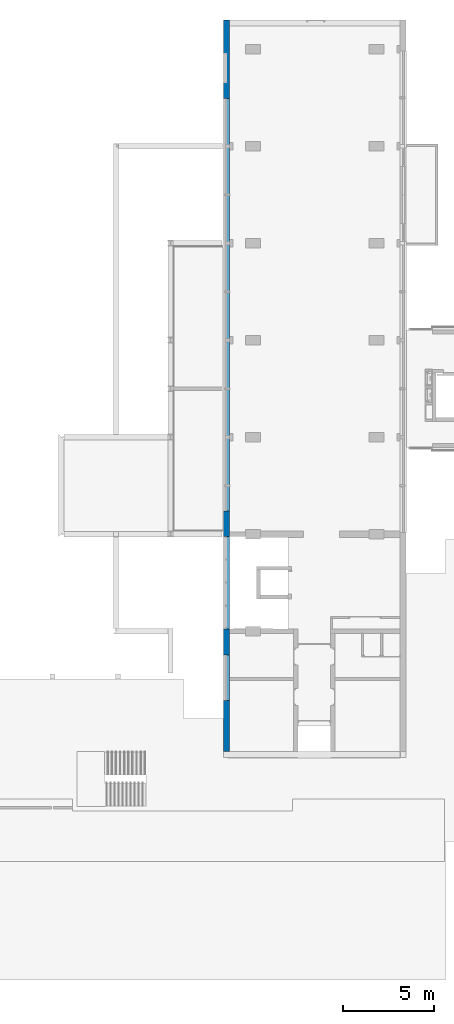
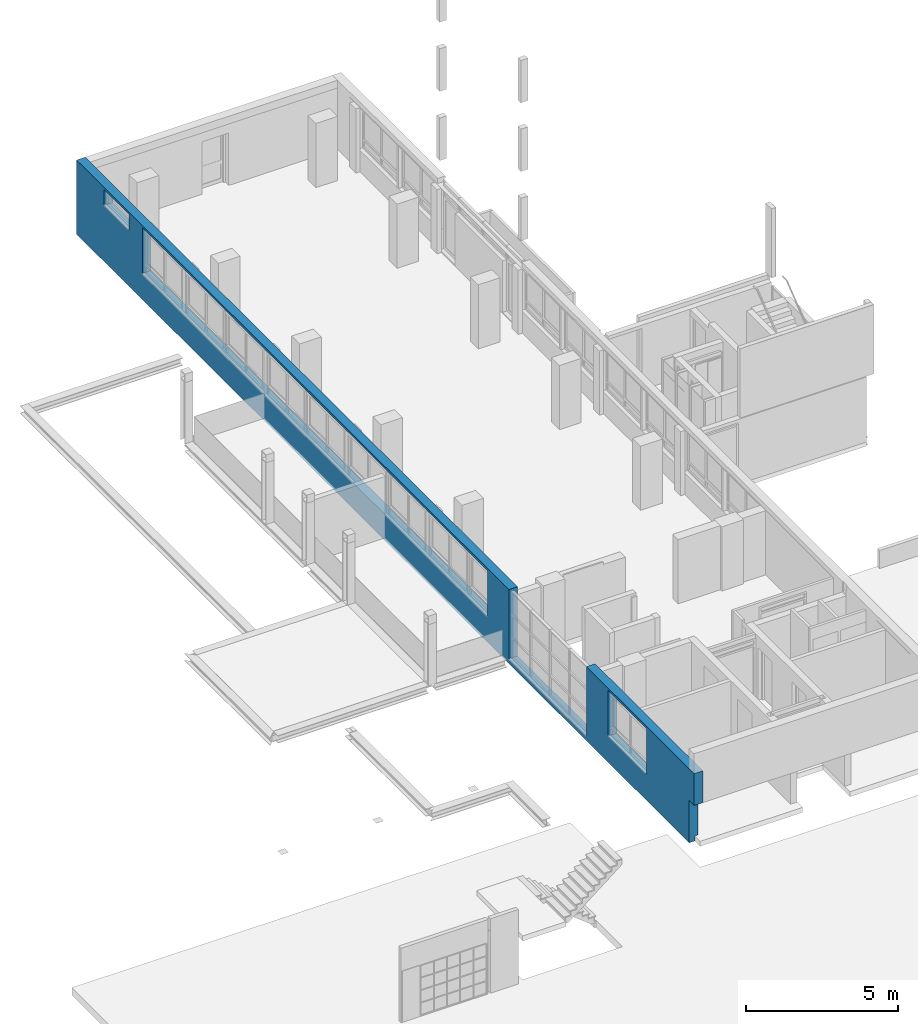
# One storey, part 9 of 22: 1 wall, 15 openings.
"""IFC2X3 building model written with IfcOpenShell, lengths in millimetres."""

from ifc_helpers import new_model, entity, si_unit, converted_unit, derived_unit, money_unit, direction, frame, origin_with_axes, place, context, subcontext, project, spatial, faceted_brep, material, type_object, element, save


model = new_model("IFC2X3")

# Units and contexts
model_context = context("Model", 3, precision=0.01, world=origin_with_axes(), true_north=direction((0.0, 1.0)))
body_context = subcontext(model_context, "Body", "Model", "MODEL_VIEW")
ifc_project = project(units=[si_unit("LENGTHUNIT", "METRE", prefix="MILLI"), si_unit("AREAUNIT", "SQUARE_METRE"), si_unit("VOLUMEUNIT", "CUBIC_METRE"), converted_unit("PLANEANGLEUNIT", "DEGREE", entity("IfcPlaneAngleMeasure", 0.0174532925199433), si_unit("PLANEANGLEUNIT", "RADIAN"), dimensions=[0, 0, 0, 0, 0, 0, 0]), money_unit("EUR"), converted_unit("TIMEUNIT", "Year", entity("IfcTimeMeasure", 31557600.0), si_unit("TIMEUNIT", "SECOND"), dimensions=[0, 0, 1, 0, 0, 0, 0]), si_unit("MASSUNIT", "GRAM", prefix="KILO"), si_unit("THERMODYNAMICTEMPERATUREUNIT", "DEGREE_CELSIUS"), si_unit("LUMINOUSINTENSITYUNIT", "LUMEN"), si_unit("ENERGYUNIT", "JOULE", prefix="MEGA"), derived_unit("THERMALCONDUCTANCEUNIT", [(si_unit("POWERUNIT", "WATT"), 1), (si_unit("LENGTHUNIT", "METRE"), -1), (si_unit("THERMODYNAMICTEMPERATUREUNIT", "KELVIN"), -1)]), derived_unit("SPECIFICHEATCAPACITYUNIT", [(si_unit("ENERGYUNIT", "JOULE"), 1), (si_unit("MASSUNIT", "GRAM", prefix="KILO"), -1), (si_unit("THERMODYNAMICTEMPERATUREUNIT", "KELVIN"), -1)]), derived_unit("MASSDENSITYUNIT", [(si_unit("MASSUNIT", "GRAM", prefix="KILO"), 1), (si_unit("VOLUMEUNIT", "CUBIC_METRE"), -1)])], contexts=[model_context])

# Site, building, storey
site_placement = place(None, origin_with_axes())
site = spatial("IfcSite", under=ifc_project, at=site_placement, Name="Site", CompositionType="ELEMENT")
building_placement = place(site_placement, origin_with_axes())
building = spatial("IfcBuilding", under=site, at=building_placement, Name="Naam gebouw", CompositionType="ELEMENT")
storey_placement = place(building_placement, frame((0.0, 0.0, 8690.0), z_axis=(0.0, 0.0, 1.0), x_axis=(1.0, 0.0, 0.0)))
storey = spatial("IfcBuildingStorey", under=building, at=storey_placement, Name="2e verdieping V", CompositionType="ELEMENT", Elevation=8690.0)

# Wall, openings
ifc_material = material(Name="ALG - CONSTRUCTIEF")
wall_type = type_object("IfcWallType", Name="ALG - CONSTRUCTIEF 330", PredefinedType="NOTDEFINED")
wall_placement = place(storey_placement, frame((20536.0, 56215.91242510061, -199.9999999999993), z_axis=(0.0, 0.0, 1.0), x_axis=(0.0, -1.0, 0.0)))
wall = element("IfcWall", 1, at=wall_placement, inside=storey, type_object=wall_type, material=ifc_material, Name="_Wand-x", context=body_context, shape_type="Brep", body=[
    faceted_brep([(32195.00000000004, 0.0, 199.9999999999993), (28384.99999999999, 0.0, 199.9999999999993), (28384.99999999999, -330.000000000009, 199.9999999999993), (33465.00000000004, -329.9999999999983, 199.9999999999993), (33465.00000000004, 0.0, 199.9999999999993), (33464.99999999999, 0.0, 0.0), (28384.99999999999, 0.0, 0.0), (28384.99999999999, 0.0, 2970.0), (28384.99999999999, -330.000000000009, 2970.0), (28384.99999999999, -329.9999999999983, 205.2898094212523), (28384.99999999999, -260.0000000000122, 217.6326980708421), (28384.99999999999, -254.9999999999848, 218.5143329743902), (28384.99999999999, -254.9999999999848, 228.51433297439), (28384.99999999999, -252.9999999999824, 228.51433297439), (28384.99999999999, -252.9999999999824, 216.8361337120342), (28384.99999999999, -260.0000000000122, 215.60184484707), (28384.99999999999, -329.9999999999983, 203.2589561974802), (40215.11702243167, -329.9999999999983, 1699.999999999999), (40545.0, -329.9999999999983, 1699.999999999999), (40545.0, -330.0000000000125, 2970.0), (33465.00000000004, -330.000000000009, 2970.0), (33465.00000000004, -329.9999999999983, 205.2898094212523), (33465.00000000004, -329.9999999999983, 203.2589561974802), (0.0, -329.9999999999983, 2970.0), (0.0, -329.9999999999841, 199.9999999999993), (0.0, -329.9999999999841, 0.0), (40215.0, -330.000000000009, 0.0), (40215.0, -330.000000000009, 199.9999999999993), (40215.11702243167, -329.9999999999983, 199.9999999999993), (3460.000000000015, -329.9999999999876, 2879.999999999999), (3460.000000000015, -329.9999999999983, 2249.999999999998), (1810.000000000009, -329.9999999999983, 2249.999999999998), (1810.000000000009, -329.9999999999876, 2879.999999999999), (26986.0, -329.9999999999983, 2879.999999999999), (26986.0, -329.9999999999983, 1055.289809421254), (26986.0, -329.9999999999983, 1053.258956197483), (26986.0, -330.000000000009, 1049.999999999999), (4325.03253040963, -329.9999999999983, 1049.999999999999), (4325.03253040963, -329.9999999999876, 1053.258956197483), (4325.03253040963, -329.9999999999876, 1055.289809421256), (4325.03253040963, -329.9999999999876, 2879.999999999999), (34892.50004664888, -330.000000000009, 1049.999999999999), (34892.50004664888, -330.0000000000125, 2879.999999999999), (37407.50004664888, -330.0000000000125, 2879.999999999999), (37407.50004664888, -330.000000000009, 1049.999999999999), (33465.00000000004, -260.0000000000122, 215.60184484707), (33465.00000000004, -252.9999999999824, 216.8361337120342), (33465.00000000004, -252.9999999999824, 228.51433297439), (33465.00000000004, -254.9999999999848, 228.51433297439), (33465.00000000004, -254.9999999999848, 218.5143329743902), (33465.00000000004, -260.0000000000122, 217.6326980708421), (33465.00000000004, -260.0000000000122, 2970.0), (33465.00000000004, 0.0, 2970.0), (33466.44135188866, -116.0000000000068, 0.0), (33466.44135188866, -116.0000000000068, 199.9999999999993), (0.0, -115.9999999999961, 0.0), (28385.00000004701, -116.0000000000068, 0.0), (40215.0, -116.0000000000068, 0.0), (28385.00000004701, -116.0000000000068, 199.9999999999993), (0.0, 0.0, 2970.0), (0.0, 0.0, 199.9999999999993), (3460.000000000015, 0.0, 2749.999999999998), (1810.000000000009, 0.0, 2749.999999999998), (1810.000000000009, 0.0, 2249.999999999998), (3460.000000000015, 0.0, 2249.999999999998), (26986.0, 0.0, 2749.999999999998), (4325.03253040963, 0.0, 2749.999999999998), (4325.03253040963, 0.0, 1049.999999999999), (26986.0, 0.0, 1049.999999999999), (40215.0, 0.0, 1699.999999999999), (40545.0, 0.0, 1699.999999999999), (40545.0, 0.0, 2970.0), (0.0, -115.9999999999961, 199.9999999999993), (40215.0, -116.0000000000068, 199.9999999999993), (40215.0, 0.0, 199.9999999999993), (3460.000000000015, -248.9999999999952, 2879.999999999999), (3460.000000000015, -248.9999999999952, 2749.999999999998), (1810.000000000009, -248.9999999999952, 2749.999999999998), (1810.000000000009, -248.9999999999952, 2879.999999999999), (26986.0, -253.0000000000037, 1078.51433297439), (26986.0, -255.0000000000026, 1078.51433297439), (26986.0, -255.0000000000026, 1068.51433297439), (26986.0, -260.0000000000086, 1067.632698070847), (26986.0, -249.0000000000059, 2879.999999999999), (26986.0, -249.0000000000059, 2749.999999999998), (26986.0, -260.0000000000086, 1065.601844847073), (26986.0, -253.0000000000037, 1066.836133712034), (4325.03253040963, -252.9999999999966, 1078.51433297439), (4325.03253040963, -252.9999999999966, 1066.836133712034), (4325.03253040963, -259.999999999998, 1065.601844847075), (4325.03253040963, -248.9999999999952, 2749.999999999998), (4325.03253040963, -248.9999999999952, 2879.999999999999), (4325.03253040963, -259.999999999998, 1067.632698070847), (4325.03253040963, -254.999999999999, 1068.51433297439), (4325.03253040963, -254.999999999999, 1078.51433297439), (34892.50004664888, -249.0000000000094, 2749.999999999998), (34892.50004664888, -249.0000000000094, 2879.999999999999), (34892.50004664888, 0.0, 1049.999999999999), (34892.50004664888, 0.0, 2749.999999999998), (37407.50004664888, -249.0000000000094, 2879.999999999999), (37407.50004664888, -249.0000000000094, 2749.999999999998), (37407.50004664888, 0.0, 2749.999999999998), (37407.50004664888, 0.0, 1049.999999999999)], [[[0, 1, 2, 3, 4]], [[0, 4, 5, 6, 1]], [[7, 8, 9, 10, 11, 12, 13, 14, 15, 16, 2, 1]], [[17, 18, 19, 20, 21, 22, 3, 2, 16, 9, 8, 23, 24, 25, 26, 27, 28], [29, 30, 31, 32], [33, 34, 35, 36, 37, 38, 39, 40], [41, 42, 43, 44]], [[45, 46, 47, 48, 49, 50, 21, 20, 51, 52, 4, 3, 22]], [[53, 5, 4, 54]], [[25, 55, 56, 6, 5, 53, 57, 26]], [[58, 1, 6, 56]], [[59, 23, 8, 7]], [[14, 13, 12, 11, 10, 9, 16, 15]], [[1, 60, 59, 7], [61, 62, 63, 64], [65, 66, 67, 68]], [[18, 17, 69, 70]], [[71, 19, 18, 70]], [[52, 51, 20, 19, 71]], [[46, 45, 22, 21, 50, 49, 48, 47]], [[55, 25, 24, 23, 59, 60, 72]], [[26, 57, 73, 27]], [[74, 28, 27, 73, 54, 4]], [[17, 28, 74, 69]], [[29, 75, 76, 61, 64, 30]], [[63, 31, 30, 64]], [[77, 78, 32, 31, 63, 62]], [[29, 32, 78, 75]], [[79, 80, 81, 82, 34, 33, 83, 84, 65, 68, 36, 35, 85, 86]], [[82, 81, 80, 79, 86, 85, 35, 34]], [[67, 37, 36, 68]], [[87, 88, 89, 38, 37, 67, 66, 90, 91, 40, 39, 92, 93, 94]], [[89, 88, 87, 94, 93, 92, 39, 38]], [[91, 83, 33, 40]], [[95, 96, 42, 41, 97, 98]], [[96, 99, 43, 42]], [[43, 99, 100, 101, 102, 44]], [[44, 102, 97, 41]], [[4, 52, 71, 70, 69, 74], [97, 102, 101, 98]], [[73, 57, 53, 54]], [[56, 55, 72, 58]], [[58, 72, 60, 1]], [[76, 77, 62, 61]], [[65, 84, 90, 66]], [[77, 76, 75, 78]], [[90, 84, 83, 91]], [[99, 96, 95, 100]], [[98, 101, 100, 95]]]),
])
opening_1_placement = place(wall_placement, frame((8297.46746959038, 0.0, 1049.999999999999), z_axis=(0.0, 0.0, 1.0), x_axis=(1.0, 0.0, 0.0)))
element("IfcOpeningElement", 2, at=opening_1_placement, cuts=wall, Name="_Merk-x", context=body_context, shape_type="Brep", body=[
    faceted_brep([(-1257.5, -259.999999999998, 1699.999999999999), (-1257.5, -248.9999999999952, 1699.999999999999), (-1257.5, 1.000000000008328, 1699.999999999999), (-1257.5, 1.000000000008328, 0.0), (-1257.5, -259.999999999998, 0.0), (-1257.5, -330.9999999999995, 1699.999999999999), (-1257.5, -330.9999999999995, 1830.0), (-1257.5, -248.9999999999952, 1830.0), (1357.500000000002, -248.9999999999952, 1699.999999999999), (1357.500000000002, 1.000000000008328, 1699.999999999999), (1357.500000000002, 1.000000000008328, 0.0), (1357.500000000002, -259.999999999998, 0.0), (1357.500000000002, -330.9999999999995, 0.0), (-1257.5, -330.9999999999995, 0.0), (1357.500000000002, -330.9999999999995, 1699.999999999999), (1357.500000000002, -330.9999999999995, 1830.0), (1357.500000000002, -248.9999999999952, 1830.0), (1357.500000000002, -259.999999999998, 1699.999999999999)], [[[0, 1, 2, 3, 4]], [[1, 0, 5, 6, 7]], [[1, 8, 9, 2]], [[9, 10, 3, 2]], [[11, 12, 13, 4, 3, 10]], [[5, 0, 4, 13]], [[5, 13, 12, 14, 15, 6]], [[16, 7, 6, 15]], [[8, 1, 7, 16]], [[8, 17, 11, 10, 9]], [[17, 14, 12, 11]], [[17, 8, 16, 15, 14]]]),
])
opening_2_placement = place(wall_placement, frame((5582.53253040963, 0.0, 1049.999999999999), z_axis=(0.0, 0.0, 1.0), x_axis=(1.0, 0.0, 0.0)))
element("IfcOpeningElement", 3, at=opening_2_placement, cuts=wall, Name="_Merk-x", context=body_context, shape_type="Brep", body=[
    faceted_brep([(-1257.5, -259.999999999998, 1699.999999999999), (-1257.5, -248.9999999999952, 1699.999999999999), (-1257.5, 1.000000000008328, 1699.999999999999), (-1257.5, 1.000000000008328, 0.0), (-1257.5, -259.999999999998, 0.0), (-1257.5, -330.9999999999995, 1699.999999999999), (-1257.5, -330.9999999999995, 1830.0), (-1257.5, -248.9999999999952, 1830.0), (1457.500000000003, -248.9999999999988, 1699.999999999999), (1457.500000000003, 1.000000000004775, 1699.999999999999), (1457.500000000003, 1.000000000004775, 0.0), (1457.500000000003, -260.0000000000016, 0.0), (1457.500000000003, -331.0000000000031, 0.0), (-1257.5, -330.9999999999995, 0.0), (1457.500000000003, -331.0000000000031, 1699.999999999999), (1457.500000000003, -331.0000000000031, 1830.0), (1457.500000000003, -248.9999999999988, 1830.0), (1457.500000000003, -260.0000000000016, 1699.999999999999)], [[[0, 1, 2, 3, 4]], [[1, 0, 5, 6, 7]], [[1, 8, 9, 2]], [[9, 10, 3, 2]], [[11, 12, 13, 4, 3, 10]], [[5, 0, 4, 13]], [[5, 13, 12, 14, 15, 6]], [[16, 7, 6, 15]], [[8, 1, 7, 16]], [[8, 17, 11, 10, 9]], [[17, 14, 12, 11]], [[17, 8, 16, 15, 14]]]),
])
opening_3_placement = place(wall_placement, frame((2635.000000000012, 0.0, 2249.999999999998), z_axis=(0.0, 0.0, 1.0), x_axis=(1.0, 0.0, 0.0)))
element("IfcOpeningElement", 4, at=opening_3_placement, cuts=wall, Name="_Merk-x", context=body_context, shape_type="Brep", body=[
    faceted_brep([(-825.0000000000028, -259.999999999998, 500.0), (-825.0000000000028, -248.9999999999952, 500.0), (-825.0000000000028, 1.000000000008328, 500.0), (-825.0000000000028, 1.000000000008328, 0.0), (-825.0000000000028, -259.999999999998, 0.0), (-825.0000000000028, -330.9999999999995, 500.0), (-825.0000000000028, -330.9999999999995, 630.0000000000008), (-825.0000000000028, -248.9999999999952, 630.0000000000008), (825.0000000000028, -248.9999999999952, 500.0), (825.0000000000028, 1.000000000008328, 500.0), (825.0000000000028, 1.000000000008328, 0.0), (825.0000000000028, -259.999999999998, 0.0), (825.0000000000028, -330.9999999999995, 0.0), (-825.0000000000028, -330.9999999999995, 0.0), (825.0000000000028, -330.9999999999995, 500.0), (825.0000000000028, -330.9999999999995, 630.0000000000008), (825.0000000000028, -248.9999999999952, 630.0000000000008), (825.0000000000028, -259.999999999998, 500.0)], [[[0, 1, 2, 3, 4]], [[1, 0, 5, 6, 7]], [[1, 8, 9, 2]], [[9, 10, 3, 2]], [[11, 12, 13, 4, 3, 10]], [[5, 0, 4, 13]], [[5, 13, 12, 14, 15, 6]], [[16, 7, 6, 15]], [[8, 1, 7, 16]], [[8, 17, 11, 10, 9]], [[17, 14, 12, 11]], [[17, 8, 16, 15, 14]]]),
])
opening_4_placement = place(wall_placement, frame((10912.4837347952, 0.0, 1049.999999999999), z_axis=(0.0, 0.0, 1.0), x_axis=(1.0, 0.0, 0.0)))
element("IfcOpeningElement", 5, at=opening_4_placement, cuts=wall, Name="_Merk-x", context=body_context, shape_type="Brep", body=[
    faceted_brep([(-1257.516265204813, -260.0000000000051, 1699.999999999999), (-1257.516265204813, -249.0000000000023, 1699.999999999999), (-1257.516265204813, 1.000000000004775, 1699.999999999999), (-1257.516265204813, 1.000000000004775, 0.0), (-1257.516265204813, -260.0000000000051, 0.0), (-1257.516265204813, -331.0000000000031, 1699.999999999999), (-1257.516265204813, -331.0000000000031, 1830.0), (-1257.516265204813, -249.0000000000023, 1830.0), (1457.516265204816, -249.0000000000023, 1699.999999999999), (1457.516265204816, 1.000000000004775, 1699.999999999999), (1457.516265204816, 1.000000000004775, 0.0), (1457.516265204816, -260.0000000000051, 0.0), (1457.516265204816, -331.0000000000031, 0.0), (-1257.516265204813, -331.0000000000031, 0.0), (1457.516265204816, -331.0000000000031, 1699.999999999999), (1457.516265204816, -331.0000000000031, 1830.0), (1457.516265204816, -249.0000000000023, 1830.0), (1457.516265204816, -260.0000000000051, 1699.999999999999)], [[[0, 1, 2, 3, 4]], [[1, 0, 5, 6, 7]], [[1, 8, 9, 2]], [[9, 10, 3, 2]], [[11, 12, 13, 4, 3, 10]], [[5, 0, 4, 13]], [[5, 13, 12, 14, 15, 6]], [[16, 7, 6, 15]], [[8, 1, 7, 16]], [[8, 17, 11, 10, 9]], [[17, 14, 12, 11]], [[17, 8, 16, 15, 14]]]),
])
opening_5_placement = place(wall_placement, frame((13627.50000000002, 0.0, 1049.999999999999), z_axis=(0.0, 0.0, 1.0), x_axis=(1.0, 0.0, 0.0)))
element("IfcOpeningElement", 6, at=opening_5_placement, cuts=wall, Name="_Merk-x", context=body_context, shape_type="Brep", body=[
    faceted_brep([(-1257.5, -260.0000000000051, 1699.999999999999), (-1257.5, -249.0000000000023, 1699.999999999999), (-1257.5, 1.000000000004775, 1699.999999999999), (-1257.5, 1.000000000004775, 0.0), (-1257.5, -260.0000000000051, 0.0), (-1257.5, -331.0000000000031, 1699.999999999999), (-1257.5, -331.0000000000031, 1830.0), (-1257.5, -249.0000000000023, 1830.0), (1357.500000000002, -249.0000000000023, 1699.999999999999), (1357.500000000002, 1.000000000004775, 1699.999999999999), (1357.500000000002, 1.000000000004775, 0.0), (1357.500000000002, -260.0000000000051, 0.0), (1357.500000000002, -331.0000000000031, 0.0), (-1257.5, -331.0000000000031, 0.0), (1357.500000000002, -331.0000000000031, 1699.999999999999), (1357.500000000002, -331.0000000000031, 1830.0), (1357.500000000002, -249.0000000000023, 1830.0), (1357.500000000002, -260.0000000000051, 1699.999999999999)], [[[0, 1, 2, 3, 4]], [[1, 0, 5, 6, 7]], [[1, 8, 9, 2]], [[9, 10, 3, 2]], [[11, 12, 13, 4, 3, 10]], [[5, 0, 4, 13]], [[5, 13, 12, 14, 15, 6]], [[16, 7, 6, 15]], [[8, 1, 7, 16]], [[8, 17, 11, 10, 9]], [[17, 14, 12, 11]], [[17, 8, 16, 15, 14]]]),
])
opening_6_placement = place(wall_placement, frame((18957.50000000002, 0.0, 1049.999999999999), z_axis=(0.0, 0.0, 1.0), x_axis=(1.0, 0.0, 0.0)))
element("IfcOpeningElement", 7, at=opening_6_placement, cuts=wall, Name="_Merk-x", context=body_context, shape_type="Brep", body=[
    faceted_brep([(-1257.5, -260.0000000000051, 1699.999999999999), (-1257.5, -249.0000000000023, 1699.999999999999), (-1257.5, 1.000000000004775, 1699.999999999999), (-1257.5, 1.000000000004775, 0.0), (-1257.5, -260.0000000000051, 0.0), (-1257.5, -331.0000000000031, 1699.999999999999), (-1257.5, -331.0000000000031, 1830.0), (-1257.5, -249.0000000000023, 1830.0), (1357.500000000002, -249.0000000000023, 1699.999999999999), (1357.500000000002, 1.000000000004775, 1699.999999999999), (1357.500000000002, 1.000000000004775, 0.0), (1357.500000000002, -260.0000000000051, 0.0), (1357.500000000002, -331.0000000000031, 0.0), (-1257.5, -331.0000000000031, 0.0), (1357.500000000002, -331.0000000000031, 1699.999999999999), (1357.500000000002, -331.0000000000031, 1830.0), (1357.500000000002, -249.0000000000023, 1830.0), (1357.500000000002, -260.0000000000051, 1699.999999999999)], [[[0, 1, 2, 3, 4]], [[1, 0, 5, 6, 7]], [[1, 8, 9, 2]], [[9, 10, 3, 2]], [[11, 12, 13, 4, 3, 10]], [[5, 0, 4, 13]], [[5, 13, 12, 14, 15, 6]], [[16, 7, 6, 15]], [[8, 1, 7, 16]], [[8, 17, 11, 10, 9]], [[17, 14, 12, 11]], [[17, 8, 16, 15, 14]]]),
])
opening_7_placement = place(wall_placement, frame((16242.50000000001, 0.0, 1049.999999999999), z_axis=(0.0, 0.0, 1.0), x_axis=(1.0, 0.0, 0.0)))
element("IfcOpeningElement", 8, at=opening_7_placement, cuts=wall, Name="_Merk-x", context=body_context, shape_type="Brep", body=[
    faceted_brep([(-1257.5, -260.0000000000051, 1699.999999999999), (-1257.5, -249.0000000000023, 1699.999999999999), (-1257.5, 1.000000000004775, 1699.999999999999), (-1257.5, 1.000000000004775, 0.0), (-1257.5, -260.0000000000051, 0.0), (-1257.5, -331.0000000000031, 1699.999999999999), (-1257.5, -331.0000000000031, 1830.0), (-1257.5, -249.0000000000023, 1830.0), (1457.500000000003, -249.0000000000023, 1699.999999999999), (1457.500000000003, 1.000000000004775, 1699.999999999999), (1457.500000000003, 1.000000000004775, 0.0), (1457.500000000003, -260.0000000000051, 0.0), (1457.500000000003, -331.0000000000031, 0.0), (-1257.5, -331.0000000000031, 0.0), (1457.500000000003, -331.0000000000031, 1699.999999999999), (1457.500000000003, -331.0000000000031, 1830.0), (1457.500000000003, -249.0000000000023, 1830.0), (1457.500000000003, -260.0000000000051, 1699.999999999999)], [[[0, 1, 2, 3, 4]], [[1, 0, 5, 6, 7]], [[1, 8, 9, 2]], [[9, 10, 3, 2]], [[11, 12, 13, 4, 3, 10]], [[5, 0, 4, 13]], [[5, 13, 12, 14, 15, 6]], [[16, 7, 6, 15]], [[8, 1, 7, 16]], [[8, 17, 11, 10, 9]], [[17, 14, 12, 11]], [[17, 8, 16, 15, 14]]]),
])
opening_8_placement = place(wall_placement, frame((24287.50000000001, 0.0, 1049.999999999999), z_axis=(0.0, 0.0, 1.0), x_axis=(1.0, 0.0, 0.0)))
element("IfcOpeningElement", 9, at=opening_8_placement, cuts=wall, Name="_Merk-x", context=body_context, shape_type="Brep", body=[
    faceted_brep([(-1257.499999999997, -260.0000000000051, 1699.999999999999), (-1257.499999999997, -249.0000000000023, 1699.999999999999), (-1257.499999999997, 1.000000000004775, 1699.999999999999), (-1257.499999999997, 1.000000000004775, 0.0), (-1257.499999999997, -260.0000000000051, 0.0), (-1257.499999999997, -331.0000000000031, 1699.999999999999), (-1257.499999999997, -331.0000000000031, 1830.0), (-1257.499999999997, -249.0000000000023, 1830.0), (1357.500000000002, -249.0000000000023, 1699.999999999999), (1357.500000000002, 1.000000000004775, 1699.999999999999), (1357.500000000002, 1.000000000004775, 0.0), (1357.500000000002, -260.0000000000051, 0.0), (1357.500000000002, -331.0000000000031, 0.0), (-1257.499999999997, -331.0000000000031, 0.0), (1357.500000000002, -331.0000000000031, 1699.999999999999), (1357.500000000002, -331.0000000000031, 1830.0), (1357.500000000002, -249.0000000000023, 1830.0), (1357.500000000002, -260.0000000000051, 1699.999999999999)], [[[0, 1, 2, 3, 4]], [[1, 0, 5, 6, 7]], [[1, 8, 9, 2]], [[9, 10, 3, 2]], [[11, 12, 13, 4, 3, 10]], [[5, 0, 4, 13]], [[5, 13, 12, 14, 15, 6]], [[16, 7, 6, 15]], [[8, 1, 7, 16]], [[8, 17, 11, 10, 9]], [[17, 14, 12, 11]], [[17, 8, 16, 15, 14]]]),
])
opening_9_placement = place(wall_placement, frame((21572.5, 0.0, 1049.999999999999), z_axis=(0.0, 0.0, 1.0), x_axis=(1.0, 0.0, 0.0)))
element("IfcOpeningElement", 10, at=opening_9_placement, cuts=wall, Name="_Merk-x", context=body_context, shape_type="Brep", body=[
    faceted_brep([(-1257.5, -260.0000000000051, 1699.999999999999), (-1257.5, -249.0000000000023, 1699.999999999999), (-1257.5, 1.000000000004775, 1699.999999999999), (-1257.5, 1.000000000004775, 0.0), (-1257.5, -260.0000000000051, 0.0), (-1257.5, -331.0000000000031, 1699.999999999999), (-1257.5, -331.0000000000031, 1830.0), (-1257.5, -249.0000000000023, 1830.0), (1457.500000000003, -249.0000000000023, 1699.999999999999), (1457.500000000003, 1.000000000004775, 1699.999999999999), (1457.500000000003, 1.000000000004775, 0.0), (1457.500000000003, -260.0000000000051, 0.0), (1457.500000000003, -331.0000000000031, 0.0), (-1257.5, -331.0000000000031, 0.0), (1457.500000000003, -331.0000000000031, 1699.999999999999), (1457.500000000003, -331.0000000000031, 1830.0), (1457.500000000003, -249.0000000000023, 1830.0), (1457.500000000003, -260.0000000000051, 1699.999999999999)], [[[0, 1, 2, 3, 4]], [[1, 0, 5, 6, 7]], [[1, 8, 9, 2]], [[9, 10, 3, 2]], [[11, 12, 13, 4, 3, 10]], [[5, 0, 4, 13]], [[5, 13, 12, 14, 15, 6]], [[16, 7, 6, 15]], [[8, 1, 7, 16]], [[8, 17, 11, 10, 9]], [[17, 14, 12, 11]], [[17, 8, 16, 15, 14]]]),
])
opening_10_placement = place(wall_placement, frame((29020.0, 0.0, 199.9999999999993), z_axis=(0.0, 0.0, 1.0), x_axis=(1.0, 0.0, 0.0)))
element("IfcOpeningElement", 11, at=opening_10_placement, cuts=wall, Name="_Merk-x", context=body_context, shape_type="Brep", body=[
    faceted_brep([(635.0000000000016, -260.0000000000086, 0.0), (635.0000000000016, -260.0000000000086, 2770.98371627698), (635.0000000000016, -331.0000000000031, 2770.98371627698), (635.0000000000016, -331.0000000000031, 0.0), (635.0000000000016, 1.000000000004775, 0.0), (635.0000000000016, 1.000000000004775, 2770.98371627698), (-635.0000000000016, -260.0000000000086, 2770.98371627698), (-635.0000000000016, -331.0000000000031, 2770.98371627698), (-635.0000000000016, 1.000000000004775, 2770.98371627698), (-635.0000000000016, -331.0000000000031, 0.0), (-635.0000000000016, -260.0000000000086, 0.0), (-635.0000000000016, 1.000000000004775, 0.0)], [[[0, 1, 2, 3]], [[1, 0, 4, 5]], [[6, 7, 2, 1, 5, 8]], [[7, 9, 3, 2]], [[0, 3, 9, 10, 11, 4]], [[5, 4, 11, 8]], [[6, 10, 9, 7]], [[10, 6, 8, 11]]]),
])
opening_11_placement = place(wall_placement, frame((26315.50000000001, 0.0, 1049.999999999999), z_axis=(0.0, 0.0, 1.0), x_axis=(1.0, 0.0, 0.0)))
element("IfcOpeningElement", 12, at=opening_11_placement, cuts=wall, Name="_Merk-x", context=body_context, shape_type="Brep", body=[
    faceted_brep([(-670.5000000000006, -260.0000000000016, 1699.999999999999), (-670.5000000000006, -248.9999999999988, 1699.999999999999), (-670.5000000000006, 1.000000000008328, 1699.999999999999), (-670.5000000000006, 1.000000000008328, 0.0), (-670.5000000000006, -260.0000000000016, 0.0), (-670.5000000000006, -330.9999999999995, 1699.999999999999), (-670.5000000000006, -330.9999999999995, 1830.0), (-670.5000000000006, -248.9999999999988, 1830.0), (670.5000000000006, -249.0000000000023, 1699.999999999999), (670.5000000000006, 1.000000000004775, 1699.999999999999), (670.5000000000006, 1.000000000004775, 0.0), (670.5000000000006, -260.0000000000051, 0.0), (670.5000000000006, -331.0000000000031, 0.0), (-670.5000000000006, -330.9999999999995, 0.0), (670.5000000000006, -331.0000000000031, 1699.999999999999), (670.5000000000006, -331.0000000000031, 1830.0), (670.5000000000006, -249.0000000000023, 1830.0), (670.5000000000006, -260.0000000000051, 1699.999999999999)], [[[0, 1, 2, 3, 4]], [[1, 0, 5, 6, 7]], [[1, 8, 9, 2]], [[9, 10, 3, 2]], [[11, 12, 13, 4, 3, 10]], [[5, 0, 4, 13]], [[5, 13, 12, 14, 15, 6]], [[16, 7, 6, 15]], [[8, 1, 7, 16]], [[8, 17, 11, 10, 9]], [[17, 14, 12, 11]], [[17, 8, 16, 15, 14]]]),
])
opening_12_placement = place(wall_placement, frame((30290.0, 0.0, 199.9999999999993), z_axis=(0.0, 0.0, 1.0), x_axis=(1.0, 0.0, 0.0)))
element("IfcOpeningElement", 13, at=opening_12_placement, cuts=wall, Name="_Merk-x", context=body_context, shape_type="Brep", body=[
    faceted_brep([(635.0000000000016, -260.0000000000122, 0.0), (635.0000000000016, -260.0000000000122, 2770.98371627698), (635.0000000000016, -331.0000000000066, 2770.98371627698), (635.0000000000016, -331.0000000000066, 0.0), (635.0000000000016, 1.000000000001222, 0.0), (635.0000000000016, 1.000000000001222, 2770.98371627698), (-635.0000000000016, -260.0000000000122, 2770.98371627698), (-635.0000000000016, -331.0000000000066, 2770.98371627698), (-635.0000000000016, 1.000000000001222, 2770.98371627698), (-635.0000000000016, -331.0000000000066, 0.0), (-635.0000000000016, -260.0000000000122, 0.0), (-635.0000000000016, 1.000000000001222, 0.0)], [[[0, 1, 2, 3]], [[1, 0, 4, 5]], [[6, 7, 2, 1, 5, 8]], [[7, 9, 3, 2]], [[0, 3, 9, 10, 11, 4]], [[5, 4, 11, 8]], [[6, 10, 9, 7]], [[10, 6, 8, 11]]]),
])
opening_13_placement = place(wall_placement, frame((31560.00000000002, 0.0, 199.9999999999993), z_axis=(0.0, 0.0, 1.0), x_axis=(1.0, 0.0, 0.0)))
element("IfcOpeningElement", 14, at=opening_13_placement, cuts=wall, Name="_Merk-x", context=body_context, shape_type="Brep", body=[
    faceted_brep([(635.0000000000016, -260.0000000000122, 0.0), (635.0000000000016, -260.0000000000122, 2770.98371627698), (635.0000000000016, -331.0000000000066, 2770.98371627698), (635.0000000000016, -331.0000000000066, 0.0), (635.0000000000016, 1.000000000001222, 0.0), (635.0000000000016, 1.000000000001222, 2770.98371627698), (-635.0000000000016, -260.0000000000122, 2770.98371627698), (-635.0000000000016, -331.0000000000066, 2770.98371627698), (-635.0000000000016, 1.000000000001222, 2770.98371627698), (-635.0000000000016, -331.0000000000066, 0.0), (-635.0000000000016, -260.0000000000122, 0.0), (-635.0000000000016, 1.000000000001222, 0.0)], [[[0, 1, 2, 3]], [[1, 0, 4, 5]], [[6, 7, 2, 1, 5, 8]], [[7, 9, 3, 2]], [[0, 3, 9, 10, 11, 4]], [[5, 4, 11, 8]], [[6, 10, 9, 7]], [[10, 6, 8, 11]]]),
])
opening_14_placement = place(wall_placement, frame((36150.00004664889, 0.0, 1049.999999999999), z_axis=(0.0, 0.0, 1.0), x_axis=(1.0, 0.0, 0.0)))
element("IfcOpeningElement", 15, at=opening_14_placement, cuts=wall, Name="_Merk-x", context=body_context, shape_type="Brep", body=[
    faceted_brep([(-1257.5, -260.0000000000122, 1699.999999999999), (-1257.5, -249.0000000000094, 1699.999999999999), (-1257.5, 1.000000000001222, 1699.999999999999), (-1257.5, 1.000000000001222, 0.0), (-1257.5, -260.0000000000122, 0.0), (-1257.5, -331.0000000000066, 1699.999999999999), (-1257.5, -331.0000000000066, 1830.0), (-1257.5, -249.0000000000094, 1830.0), (1257.5, -249.0000000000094, 1699.999999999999), (1257.5, 1.000000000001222, 1699.999999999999), (1257.5, 1.000000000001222, 0.0), (1257.5, -260.0000000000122, 0.0), (1257.5, -331.0000000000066, 0.0), (-1257.5, -331.0000000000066, 0.0), (1257.5, -331.0000000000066, 1699.999999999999), (1257.5, -331.0000000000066, 1830.0), (1257.5, -249.0000000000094, 1830.0), (1257.5, -260.0000000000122, 1699.999999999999)], [[[0, 1, 2, 3, 4]], [[1, 0, 5, 6, 7]], [[1, 8, 9, 2]], [[9, 10, 3, 2]], [[11, 12, 13, 4, 3, 10]], [[5, 0, 4, 13]], [[5, 13, 12, 14, 15, 6]], [[16, 7, 6, 15]], [[8, 1, 7, 16]], [[8, 17, 11, 10, 9]], [[17, 14, 12, 11]], [[17, 8, 16, 15, 14]]]),
])
opening_15_placement = place(wall_placement, frame((32830.00000000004, 0.0, 199.9999999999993), z_axis=(0.0, 0.0, 1.0), x_axis=(1.0, 0.0, 0.0)))
element("IfcOpeningElement", 16, at=opening_15_placement, cuts=wall, Name="_Merk-x", context=body_context, shape_type="Brep", body=[
    faceted_brep([(635.0000000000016, -260.0000000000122, 0.0), (635.0000000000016, -260.0000000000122, 2770.98371627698), (635.0000000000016, -331.0000000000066, 2770.98371627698), (635.0000000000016, -331.0000000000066, 0.0), (635.0000000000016, 1.000000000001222, 0.0), (635.0000000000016, 1.000000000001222, 2770.98371627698), (-635.0000000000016, -260.0000000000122, 2770.98371627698), (-635.0000000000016, -331.0000000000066, 2770.98371627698), (-635.0000000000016, 1.000000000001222, 2770.98371627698), (-635.0000000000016, -331.0000000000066, 0.0), (-635.0000000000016, -260.0000000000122, 0.0), (-635.0000000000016, 1.000000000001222, 0.0)], [[[0, 1, 2, 3]], [[1, 0, 4, 5]], [[6, 7, 2, 1, 5, 8]], [[7, 9, 3, 2]], [[0, 3, 9, 10, 11, 4]], [[5, 4, 11, 8]], [[6, 10, 9, 7]], [[10, 6, 8, 11]]]),
])

save(model, "model.ifc")
